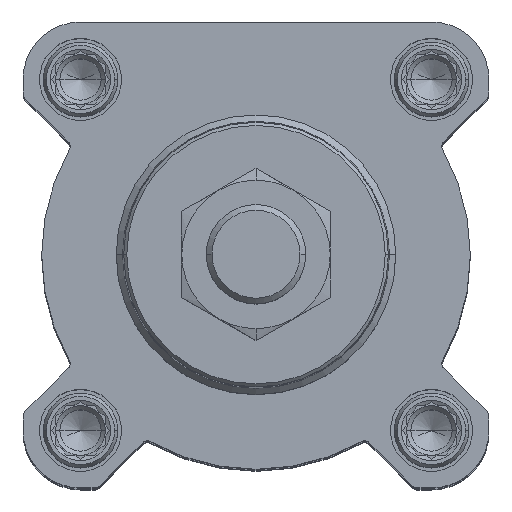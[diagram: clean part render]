
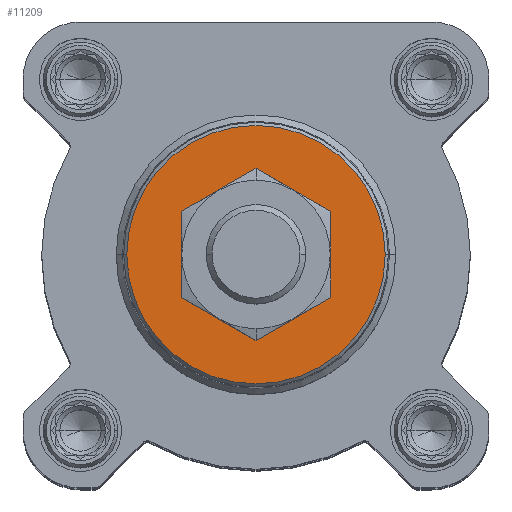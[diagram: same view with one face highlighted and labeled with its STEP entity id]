
A CAD part, top view. The second image highlights one B-rep face of the part: STEP entity #11209.
In plain terms, the highlighted planar face has unit normal (0, 0, 1).
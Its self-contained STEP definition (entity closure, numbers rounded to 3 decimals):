
#284 = CARTESIAN_POINT ( 'NONE',  ( 0., 0., 27. ) ) ;
#847 = CARTESIAN_POINT ( 'NONE',  ( 20.799, 0., 27. ) ) ;
#986 = DIRECTION ( 'NONE',  ( -1., 0., 0. ) ) ;
#1339 = ORIENTED_EDGE ( 'NONE', *, *, #16788, .F. ) ;
#3106 = DIRECTION ( 'NONE',  ( -1., 0., 0. ) ) ;
#3176 = AXIS2_PLACEMENT_3D ( 'NONE', #9231, #15388, #11148 ) ;
#5052 = EDGE_LOOP ( 'NONE', ( #7663, #12038 ) ) ;
#5528 = CARTESIAN_POINT ( 'NONE',  ( 0., 0., 27. ) ) ;
#6035 = ORIENTED_EDGE ( 'NONE', *, *, #15234, .F. ) ;
#6320 = VERTEX_POINT ( 'NONE', #18531 ) ;
#7355 = DIRECTION ( 'NONE',  ( 0., 0., -1. ) ) ;
#7520 = CIRCLE ( 'NONE', #11404, 20.799 ) ;
#7663 = ORIENTED_EDGE ( 'NONE', *, *, #10734, .T. ) ;
#7752 = VERTEX_POINT ( 'NONE', #19623 ) ;
#9231 = CARTESIAN_POINT ( 'NONE',  ( 0., 0., 27. ) ) ;
#10734 = EDGE_CURVE ( 'NONE', #7752, #17054, #13694, .T. ) ;
#10741 = FACE_BOUND ( 'NONE', #5052, .T. ) ;
#11040 = CARTESIAN_POINT ( 'NONE',  ( 10., 0., 27. ) ) ;
#11148 = DIRECTION ( 'NONE',  ( 0., -1., 0. ) ) ;
#11209 = ADVANCED_FACE ( 'NONE', ( #12252, #10741 ), #16920, .F. ) ;
#11404 = AXIS2_PLACEMENT_3D ( 'NONE', #15259, #16584, #19917 ) ;
#11674 = EDGE_LOOP ( 'NONE', ( #6035, #1339 ) ) ;
#12038 = ORIENTED_EDGE ( 'NONE', *, *, #15615, .T. ) ;
#12179 = DIRECTION ( 'NONE',  ( 0., 0., -1. ) ) ;
#12252 = FACE_OUTER_BOUND ( 'NONE', #11674, .T. ) ;
#13613 = CARTESIAN_POINT ( 'NONE',  ( 0., 0., 27. ) ) ;
#13694 = CIRCLE ( 'NONE', #16955, 10. ) ;
#14306 = AXIS2_PLACEMENT_3D ( 'NONE', #13613, #7355, #19897 ) ;
#14345 = CIRCLE ( 'NONE', #16941, 20.799 ) ;
#15234 = EDGE_CURVE ( 'NONE', #6320, #19993, #7520, .T. ) ;
#15259 = CARTESIAN_POINT ( 'NONE',  ( 0., 0., 27. ) ) ;
#15388 = DIRECTION ( 'NONE',  ( 0., 0., -1. ) ) ;
#15615 = EDGE_CURVE ( 'NONE', #17054, #7752, #17881, .T. ) ;
#16584 = DIRECTION ( 'NONE',  ( 0., 0., -1. ) ) ;
#16788 = EDGE_CURVE ( 'NONE', #19993, #6320, #14345, .T. ) ;
#16920 = PLANE ( 'NONE',  #3176 ) ;
#16941 = AXIS2_PLACEMENT_3D ( 'NONE', #5528, #18065, #986 ) ;
#16955 = AXIS2_PLACEMENT_3D ( 'NONE', #284, #12179, #3106 ) ;
#17054 = VERTEX_POINT ( 'NONE', #11040 ) ;
#17881 = CIRCLE ( 'NONE', #14306, 10. ) ;
#18065 = DIRECTION ( 'NONE',  ( 0., 0., -1. ) ) ;
#18531 = CARTESIAN_POINT ( 'NONE',  ( -20.799, 0., 27. ) ) ;
#19623 = CARTESIAN_POINT ( 'NONE',  ( -10., 0., 27. ) ) ;
#19897 = DIRECTION ( 'NONE',  ( -1., 0., 0. ) ) ;
#19917 = DIRECTION ( 'NONE',  ( -1., 0., 0. ) ) ;
#19993 = VERTEX_POINT ( 'NONE', #847 ) ;
